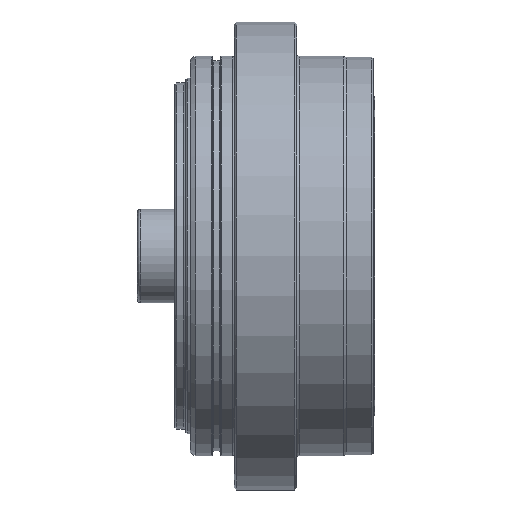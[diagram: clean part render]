
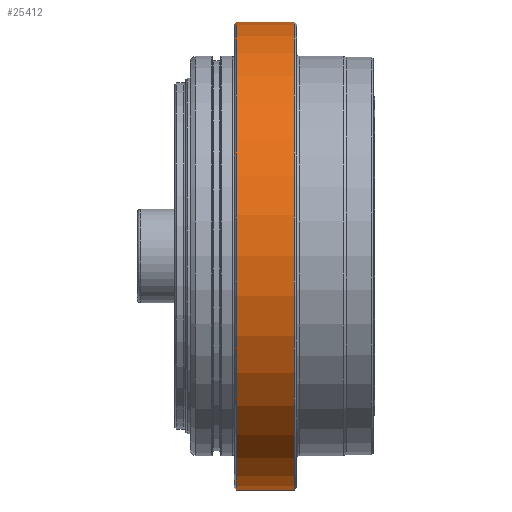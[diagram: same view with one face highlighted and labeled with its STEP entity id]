
A CAD part, top view. The second image highlights one B-rep face of the part: STEP entity #25412.
In plain terms, the highlighted cylindrical face has radius 75 mm (diameter 150 mm), a partial arc.
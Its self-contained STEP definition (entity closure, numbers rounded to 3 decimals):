
#360=CARTESIAN_POINT('',(9.3,0.,0.));
#361=DIRECTION('',(-1.,0.,0.));
#362=DIRECTION('',(0.,-1.,0.));
#363=AXIS2_PLACEMENT_3D('',#360,#361,#362);
#369=DIRECTION('',(1.,0.,0.));
#370=VECTOR('',#369,18.6);
#371=CARTESIAN_POINT('',(-9.3,-75.,0.));
#372=LINE('',#371,#370);
#373=DIRECTION('',(1.,0.,0.));
#374=VECTOR('',#373,18.6);
#375=CARTESIAN_POINT('',(-9.3,75.,0.));
#376=LINE('',#375,#374);
#387=CARTESIAN_POINT('',(-9.3,0.,0.));
#388=DIRECTION('',(-1.,0.,0.));
#389=DIRECTION('',(0.,-1.,0.));
#390=AXIS2_PLACEMENT_3D('',#387,#388,#389);
#24114=CARTESIAN_POINT('',(-9.3,-75.,0.));
#24115=CARTESIAN_POINT('',(-9.3,75.,0.));
#24116=VERTEX_POINT('',#24114);
#24117=VERTEX_POINT('',#24115);
#24126=CARTESIAN_POINT('',(9.3,-75.,0.));
#24127=CARTESIAN_POINT('',(9.3,75.,0.));
#24128=VERTEX_POINT('',#24126);
#24129=VERTEX_POINT('',#24127);
#25398=CARTESIAN_POINT('',(37.425,0.,0.));
#25399=DIRECTION('',(-1.,0.,0.));
#25400=DIRECTION('',(0.,1.,0.));
#25401=AXIS2_PLACEMENT_3D('',#25398,#25399,#25400);
#25402=CYLINDRICAL_SURFACE('',#25401,75.);
#25404=ORIENTED_EDGE('',*,*,#25403,.F.);
#25406=ORIENTED_EDGE('',*,*,#25405,.T.);
#25408=ORIENTED_EDGE('',*,*,#25407,.T.);
#25409=ORIENTED_EDGE('',*,*,#25392,.F.);
#25410=EDGE_LOOP('',(#25404,#25406,#25408,#25409));
#25411=FACE_OUTER_BOUND('',#25410,.F.);
#25412=ADVANCED_FACE('',(#25411),#25402,.T.);
#364=CIRCLE('',#363,75.);
#391=CIRCLE('',#390,75.);
#25392=EDGE_CURVE('',#24128,#24129,#364,.T.);
#25403=EDGE_CURVE('',#24116,#24128,#372,.T.);
#25405=EDGE_CURVE('',#24116,#24117,#391,.T.);
#25407=EDGE_CURVE('',#24117,#24129,#376,.T.);
